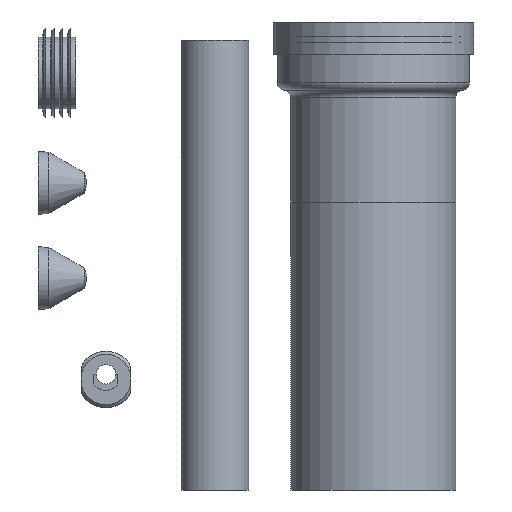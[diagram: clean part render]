
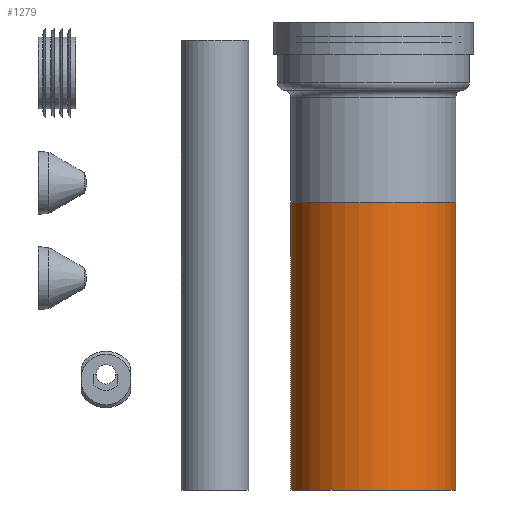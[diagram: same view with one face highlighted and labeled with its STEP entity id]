
A CAD part, front view. The second image highlights one B-rep face of the part: STEP entity #1279.
In plain terms, the highlighted cylindrical face has radius 55 mm (diameter 110 mm), a full revolution.
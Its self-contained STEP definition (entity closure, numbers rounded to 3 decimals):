
#180=CYLINDRICAL_SURFACE($,#1491,55.);
#269=FACE_OUTER_BOUND($,#565,.T.);
#384=FACE_BOUND($,#566,.T.);
#565=EDGE_LOOP($,(#1141));
#566=EDGE_LOOP($,(#1142));
#663=CIRCLE($,#1492,55.);
#664=CIRCLE($,#1493,55.);
#773=VERTEX_POINT($,#2304);
#774=VERTEX_POINT($,#2306);
#897=EDGE_CURVE($,#773,#773,#663,.T.);
#898=EDGE_CURVE($,#774,#774,#664,.T.);
#1141=ORIENTED_EDGE($,*,*,#897,.T.);
#1142=ORIENTED_EDGE($,*,*,#898,.F.);
#1279=ADVANCED_FACE($,(#269,#384),#180,.T.);
#1491=AXIS2_PLACEMENT_3D($,#2303,#1920,#1921);
#1492=AXIS2_PLACEMENT_3D($,#2305,#1922,#1923);
#1493=AXIS2_PLACEMENT_3D($,#2307,#1924,#1925);
#1920=DIRECTION('center_axis',(0.,0.,1.));
#1921=DIRECTION('ref_axis',(-1.,0.,0.));
#1922=DIRECTION('center_axis',(0.,0.,-1.));
#1923=DIRECTION('ref_axis',(-1.,0.,0.));
#1924=DIRECTION('center_axis',(0.,0.,-1.));
#1925=DIRECTION('ref_axis',(-1.,0.,0.));
#2303=CARTESIAN_POINT('Origin',(0.,0.,0.));
#2304=CARTESIAN_POINT('',(55.,0.,192.));
#2305=CARTESIAN_POINT('Origin',(0.,0.,192.));
#2306=CARTESIAN_POINT('',(55.,0.,0.));
#2307=CARTESIAN_POINT('Origin',(0.,0.,0.));
